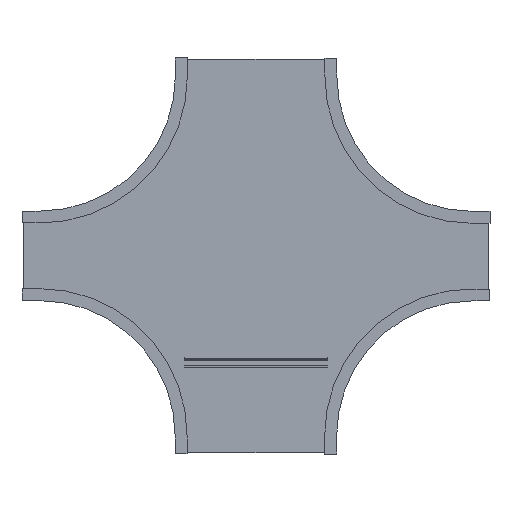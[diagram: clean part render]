
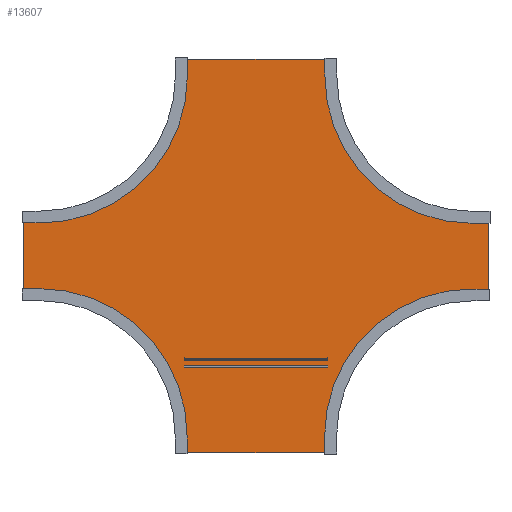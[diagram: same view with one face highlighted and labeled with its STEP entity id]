
A CAD part, front view. The second image highlights one B-rep face of the part: STEP entity #13607.
In plain terms, the highlighted planar face has unit normal (0, -1, 0).
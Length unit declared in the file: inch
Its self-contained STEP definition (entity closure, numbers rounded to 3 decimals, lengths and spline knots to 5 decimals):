
#13304=DIRECTION('',(0.,0.,1.));
#13305=VECTOR('',#13304,11.875);
#13306=CARTESIAN_POINT('',(-38.875,0.,-5.9375));
#13307=LINE('',#13306,#13305);
#13308=DIRECTION('',(1.,0.,0.));
#13309=VECTOR('',#13308,2.785);
#13310=CARTESIAN_POINT('',(-38.875,0.,5.9375));
#13311=LINE('',#13310,#13309);
#13312=CARTESIAN_POINT('',(-36.09,0.,30.09));
#13313=DIRECTION('',(0.,-1.,0.));
#13314=DIRECTION('',(0.,0.,-1.));
#13315=AXIS2_PLACEMENT_3D('',#13312,#13313,#13314);
#13317=DIRECTION('',(0.,0.,1.));
#13318=VECTOR('',#13317,2.785);
#13319=CARTESIAN_POINT('',(-11.9375,0.,30.09));
#13320=LINE('',#13319,#13318);
#13321=DIRECTION('',(1.,0.,0.));
#13322=VECTOR('',#13321,23.875);
#13323=CARTESIAN_POINT('',(-11.9375,0.,32.875));
#13324=LINE('',#13323,#13322);
#13325=DIRECTION('',(0.,0.,-1.));
#13326=VECTOR('',#13325,2.785);
#13327=CARTESIAN_POINT('',(11.9375,0.,32.875));
#13328=LINE('',#13327,#13326);
#13329=CARTESIAN_POINT('',(36.09,0.,30.09));
#13330=DIRECTION('',(0.,-1.,0.));
#13331=DIRECTION('',(-1.,0.,0.));
#13332=AXIS2_PLACEMENT_3D('',#13329,#13330,#13331);
#13334=DIRECTION('',(1.,0.,0.));
#13335=VECTOR('',#13334,2.785);
#13336=CARTESIAN_POINT('',(36.09,0.,5.9375));
#13337=LINE('',#13336,#13335);
#13338=DIRECTION('',(0.,0.,-1.));
#13339=VECTOR('',#13338,11.875);
#13340=CARTESIAN_POINT('',(38.875,0.,5.9375));
#13341=LINE('',#13340,#13339);
#13342=DIRECTION('',(-1.,0.,0.));
#13343=VECTOR('',#13342,2.785);
#13344=CARTESIAN_POINT('',(38.875,0.,-5.9375));
#13345=LINE('',#13344,#13343);
#13346=CARTESIAN_POINT('',(36.09,0.,-30.09));
#13347=DIRECTION('',(0.,-1.,0.));
#13348=DIRECTION('',(0.,0.,1.));
#13349=AXIS2_PLACEMENT_3D('',#13346,#13347,#13348);
#13351=DIRECTION('',(0.,0.,-1.));
#13352=VECTOR('',#13351,2.785);
#13353=CARTESIAN_POINT('',(11.9375,0.,-30.09));
#13354=LINE('',#13353,#13352);
#13355=DIRECTION('',(-1.,0.,0.));
#13356=VECTOR('',#13355,23.875);
#13357=CARTESIAN_POINT('',(11.9375,0.,-32.875));
#13358=LINE('',#13357,#13356);
#13359=DIRECTION('',(0.,0.,1.));
#13360=VECTOR('',#13359,2.785);
#13361=CARTESIAN_POINT('',(-11.9375,0.,-32.875));
#13362=LINE('',#13361,#13360);
#13363=CARTESIAN_POINT('',(-36.09,0.,-30.09));
#13364=DIRECTION('',(0.,-1.,0.));
#13365=DIRECTION('',(1.,0.,0.));
#13366=AXIS2_PLACEMENT_3D('',#13363,#13364,#13365);
#13368=DIRECTION('',(-1.,0.,0.));
#13369=VECTOR('',#13368,2.785);
#13370=CARTESIAN_POINT('',(-36.09,0.,-5.9375));
#13371=LINE('',#13370,#13369);
#13504=CARTESIAN_POINT('',(-38.875,0.,-5.9375));
#13505=CARTESIAN_POINT('',(-38.875,0.,5.9375));
#13506=VERTEX_POINT('',#13504);
#13507=VERTEX_POINT('',#13505);
#13508=CARTESIAN_POINT('',(-36.09,0.,5.9375));
#13509=VERTEX_POINT('',#13508);
#13510=CARTESIAN_POINT('',(-11.9375,0.,30.09));
#13511=VERTEX_POINT('',#13510);
#13512=CARTESIAN_POINT('',(-11.9375,0.,32.875));
#13513=VERTEX_POINT('',#13512);
#13514=CARTESIAN_POINT('',(11.9375,0.,32.875));
#13515=VERTEX_POINT('',#13514);
#13516=CARTESIAN_POINT('',(11.9375,0.,30.09));
#13517=VERTEX_POINT('',#13516);
#13518=CARTESIAN_POINT('',(36.09,0.,5.9375));
#13519=VERTEX_POINT('',#13518);
#13520=CARTESIAN_POINT('',(38.875,0.,5.9375));
#13521=VERTEX_POINT('',#13520);
#13522=CARTESIAN_POINT('',(38.875,0.,-5.9375));
#13523=VERTEX_POINT('',#13522);
#13524=CARTESIAN_POINT('',(36.09,0.,-5.9375));
#13525=VERTEX_POINT('',#13524);
#13526=CARTESIAN_POINT('',(11.9375,0.,-30.09));
#13527=VERTEX_POINT('',#13526);
#13528=CARTESIAN_POINT('',(11.9375,0.,-32.875));
#13529=VERTEX_POINT('',#13528);
#13530=CARTESIAN_POINT('',(-11.9375,0.,-32.875));
#13531=VERTEX_POINT('',#13530);
#13532=CARTESIAN_POINT('',(-11.9375,0.,-30.09));
#13533=VERTEX_POINT('',#13532);
#13534=CARTESIAN_POINT('',(-36.09,0.,-5.9375));
#13535=VERTEX_POINT('',#13534);
#13568=CARTESIAN_POINT('',(0.,0.,0.));
#13569=DIRECTION('',(0.,1.,0.));
#13570=DIRECTION('',(1.,0.,0.));
#13571=AXIS2_PLACEMENT_3D('',#13568,#13569,#13570);
#13572=PLANE('',#13571);
#13574=ORIENTED_EDGE('',*,*,#13573,.T.);
#13576=ORIENTED_EDGE('',*,*,#13575,.T.);
#13578=ORIENTED_EDGE('',*,*,#13577,.T.);
#13580=ORIENTED_EDGE('',*,*,#13579,.T.);
#13582=ORIENTED_EDGE('',*,*,#13581,.T.);
#13584=ORIENTED_EDGE('',*,*,#13583,.T.);
#13586=ORIENTED_EDGE('',*,*,#13585,.T.);
#13588=ORIENTED_EDGE('',*,*,#13587,.T.);
#13590=ORIENTED_EDGE('',*,*,#13589,.T.);
#13592=ORIENTED_EDGE('',*,*,#13591,.T.);
#13594=ORIENTED_EDGE('',*,*,#13593,.T.);
#13596=ORIENTED_EDGE('',*,*,#13595,.T.);
#13598=ORIENTED_EDGE('',*,*,#13597,.T.);
#13600=ORIENTED_EDGE('',*,*,#13599,.T.);
#13602=ORIENTED_EDGE('',*,*,#13601,.T.);
#13604=ORIENTED_EDGE('',*,*,#13603,.T.);
#13605=EDGE_LOOP('',(#13574,#13576,#13578,#13580,#13582,#13584,#13586,#13588,
#13590,#13592,#13594,#13596,#13598,#13600,#13602,#13604));
#13606=FACE_OUTER_BOUND('',#13605,.F.);
#13607=ADVANCED_FACE('',(#13606),#13572,.F.);
#13316=CIRCLE('',#13315,24.1525);
#13333=CIRCLE('',#13332,24.1525);
#13350=CIRCLE('',#13349,24.1525);
#13367=CIRCLE('',#13366,24.1525);
#13573=EDGE_CURVE('',#13506,#13507,#13307,.T.);
#13575=EDGE_CURVE('',#13507,#13509,#13311,.T.);
#13577=EDGE_CURVE('',#13509,#13511,#13316,.T.);
#13579=EDGE_CURVE('',#13511,#13513,#13320,.T.);
#13581=EDGE_CURVE('',#13513,#13515,#13324,.T.);
#13583=EDGE_CURVE('',#13515,#13517,#13328,.T.);
#13585=EDGE_CURVE('',#13517,#13519,#13333,.T.);
#13587=EDGE_CURVE('',#13519,#13521,#13337,.T.);
#13589=EDGE_CURVE('',#13521,#13523,#13341,.T.);
#13591=EDGE_CURVE('',#13523,#13525,#13345,.T.);
#13593=EDGE_CURVE('',#13525,#13527,#13350,.T.);
#13595=EDGE_CURVE('',#13527,#13529,#13354,.T.);
#13597=EDGE_CURVE('',#13529,#13531,#13358,.T.);
#13599=EDGE_CURVE('',#13531,#13533,#13362,.T.);
#13601=EDGE_CURVE('',#13533,#13535,#13367,.T.);
#13603=EDGE_CURVE('',#13535,#13506,#13371,.T.);
